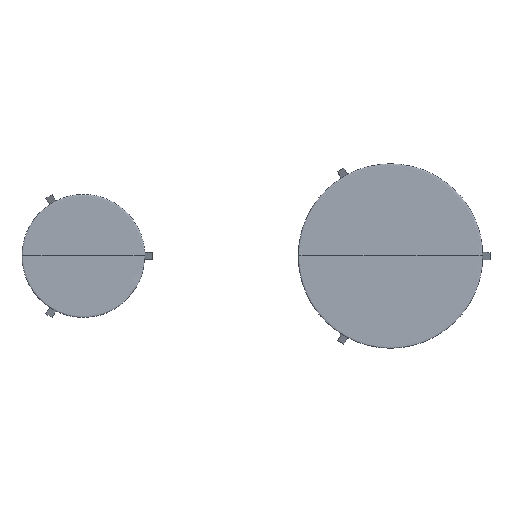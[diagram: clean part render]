
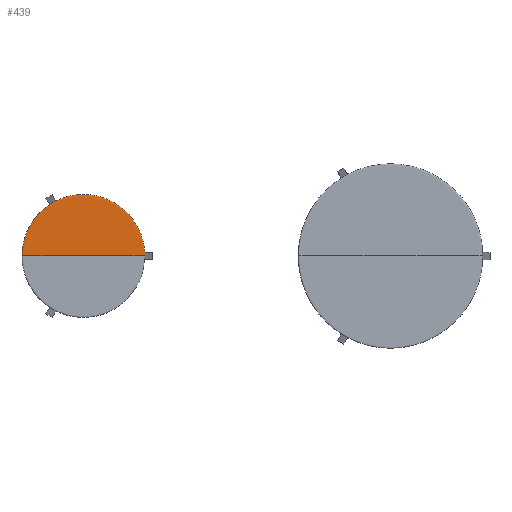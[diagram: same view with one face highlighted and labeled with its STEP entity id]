
A CAD part, top view. The second image highlights one B-rep face of the part: STEP entity #439.
In plain terms, the highlighted free-form (B-spline) face has degree [2, 3] with [5, 13] control points.
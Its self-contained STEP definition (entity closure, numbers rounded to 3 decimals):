
#67=(
BOUNDED_SURFACE()
B_SPLINE_SURFACE(2,3,((#8767,#8768,#8769,#8770,#8771,#8772,#8773,#8774,
#8775,#8776,#8777,#8778,#8779),(#8780,#8781,#8782,#8783,#8784,#8785,#8786,
#8787,#8788,#8789,#8790,#8791,#8792),(#8793,#8794,#8795,#8796,#8797,#8798,
#8799,#8800,#8801,#8802,#8803,#8804,#8805),(#8806,#8807,#8808,#8809,#8810,
#8811,#8812,#8813,#8814,#8815,#8816,#8817,#8818),(#8819,#8820,#8821,#8822,
#8823,#8824,#8825,#8826,#8827,#8828,#8829,#8830,#8831)),.UNSPECIFIED.,.F.,
 .F.,.F.)
B_SPLINE_SURFACE_WITH_KNOTS((3,2,3),(4,3,3,3,4),(0.,470.213,940.426),
(-450.,-45.,16.602,29.478,471.478),
 .UNSPECIFIED.)
GEOMETRIC_REPRESENTATION_ITEM()
RATIONAL_B_SPLINE_SURFACE(((1.,1.,1.,1.,1.,1.,1.,1.,1.,1.,1.,1.,1.),(0.707,
0.707,0.707,0.707,0.707,
0.707,0.707,0.707,0.707,
0.707,0.707,0.707,0.707),
(1.,1.,1.,1.,1.,1.,1.,1.,1.,1.,1.,1.,1.),(0.707,0.707,
0.707,0.707,0.707,0.707,
0.707,0.707,0.707,0.707,
0.707,0.707,0.707),(1.,1.,1.,1.,1.,
1.,1.,1.,1.,1.,1.,1.,1.)))
REPRESENTATION_ITEM('')
SURFACE()
);
#198=FACE_BOUND('',#1256,.T.);
#439=ADVANCED_FACE('',(#841,#198),#67,.T.);
#841=FACE_OUTER_BOUND('',#1255,.T.);
#1255=EDGE_LOOP('',(#2396,#2397,#2398,#2399,#2400));
#1256=EDGE_LOOP('',(#2401,#2402));
#2396=ORIENTED_EDGE('',*,*,#3618,.T.);
#2397=ORIENTED_EDGE('',*,*,#3620,.T.);
#2398=ORIENTED_EDGE('',*,*,#3609,.T.);
#2399=ORIENTED_EDGE('',*,*,#3619,.T.);
#2400=ORIENTED_EDGE('',*,*,#3608,.F.);
#2401=ORIENTED_EDGE('',*,*,#3615,.T.);
#2402=ORIENTED_EDGE('',*,*,#3629,.T.);
#3608=EDGE_CURVE('',#5113,#5114,#4683,.T.);
#3609=EDGE_CURVE('',#5116,#5122,#4120,.T.);
#3615=EDGE_CURVE('',#5120,#5127,#4124,.T.);
#3618=EDGE_CURVE('',#5113,#5121,#4687,.T.);
#3619=EDGE_CURVE('',#5122,#5114,#4688,.T.);
#3620=EDGE_CURVE('',#5121,#5116,#4126,.T.);
#3629=EDGE_CURVE('',#5127,#5120,#4135,.T.);
#4120=(
BOUNDED_CURVE()
B_SPLINE_CURVE(2,(#8935,#8936,#8937),.UNSPECIFIED.,.F.,.F.)
B_SPLINE_CURVE_WITH_KNOTS((3,3),(0.,4.712),.UNSPECIFIED.)
CURVE()
GEOMETRIC_REPRESENTATION_ITEM()
RATIONAL_B_SPLINE_CURVE((1.,0.707,1.))
REPRESENTATION_ITEM('')
);
#4124=(
BOUNDED_CURVE()
B_SPLINE_CURVE(2,(#8957,#8958,#8959,#8960,#8961),.UNSPECIFIED.,.F.,.F.)
B_SPLINE_CURVE_WITH_KNOTS((3,2,3),(0.,4.712,9.425),
 .UNSPECIFIED.)
CURVE()
GEOMETRIC_REPRESENTATION_ITEM()
RATIONAL_B_SPLINE_CURVE((1.,0.707,1.,0.707,1.))
REPRESENTATION_ITEM('')
);
#4126=(
BOUNDED_CURVE()
B_SPLINE_CURVE(2,(#8984,#8985,#8986),.UNSPECIFIED.,.F.,.F.)
B_SPLINE_CURVE_WITH_KNOTS((3,3),(14.137,18.85),
 .UNSPECIFIED.)
CURVE()
GEOMETRIC_REPRESENTATION_ITEM()
RATIONAL_B_SPLINE_CURVE((1.,0.707,1.))
REPRESENTATION_ITEM('')
);
#4135=(
BOUNDED_CURVE()
B_SPLINE_CURVE(2,(#9014,#9015,#9016,#9017,#9018),.UNSPECIFIED.,.F.,.F.)
B_SPLINE_CURVE_WITH_KNOTS((3,2,3),(9.425,14.137,18.85),
 .UNSPECIFIED.)
CURVE()
GEOMETRIC_REPRESENTATION_ITEM()
RATIONAL_B_SPLINE_CURVE((1.,0.707,1.,0.707,1.))
REPRESENTATION_ITEM('')
);
#4683=B_SPLINE_CURVE_WITH_KNOTS('',3,(#8922,#8923,#8924,#8925,#8926,#8927,
#8928,#8929,#8930,#8931,#8932,#8933,#8934),.UNSPECIFIED.,.F.,.F.,(4,3,3,
3,4),(-450.,-45.,16.602,29.478,471.478),
 .UNSPECIFIED.);
#4687=B_SPLINE_CURVE_WITH_KNOTS('',1,(#8969,#8970),.UNSPECIFIED.,.F.,.F.,
(2,2),(-450.,-153.),.UNSPECIFIED.);
#4688=B_SPLINE_CURVE_WITH_KNOTS('',3,(#8971,#8972,#8973,#8974,#8975,#8976,
#8977,#8978,#8979,#8980,#8981,#8982,#8983),.UNSPECIFIED.,.F.,.F.,(4,3,3,
3,4),(-143.471,-45.,16.602,29.478,471.478),
 .UNSPECIFIED.);
#5113=VERTEX_POINT('',#8906);
#5114=VERTEX_POINT('',#8907);
#5116=VERTEX_POINT('',#8909);
#5120=VERTEX_POINT('',#8913);
#5121=VERTEX_POINT('',#8914);
#5122=VERTEX_POINT('',#8915);
#5127=VERTEX_POINT('',#8920);
#8767=CARTESIAN_POINT('',(0.,0.,336.));
#8768=CARTESIAN_POINT('',(85.,0.,336.));
#8769=CARTESIAN_POINT('',(170.,0.,336.));
#8770=CARTESIAN_POINT('',(255.,0.,336.));
#8771=CARTESIAN_POINT('',(275.02,0.,336.));
#8772=CARTESIAN_POINT('',(300.,0.,344.007));
#8773=CARTESIAN_POINT('',(300.,0.,360.));
#8774=CARTESIAN_POINT('',(300.,0.,364.878));
#8775=CARTESIAN_POINT('',(297.398,0.,366.));
#8776=CARTESIAN_POINT('',(292.,0.,366.));
#8777=CARTESIAN_POINT('',(194.667,0.,366.));
#8778=CARTESIAN_POINT('',(97.333,0.,366.));
#8779=CARTESIAN_POINT('',(0.,0.,366.));
#8780=CARTESIAN_POINT('',(0.,0.,336.));
#8781=CARTESIAN_POINT('',(85.,85.,336.));
#8782=CARTESIAN_POINT('',(170.,170.,336.));
#8783=CARTESIAN_POINT('',(255.,255.,336.));
#8784=CARTESIAN_POINT('',(275.02,275.02,336.));
#8785=CARTESIAN_POINT('',(300.,300.,344.007));
#8786=CARTESIAN_POINT('',(300.,300.,360.));
#8787=CARTESIAN_POINT('',(300.,300.,364.878));
#8788=CARTESIAN_POINT('',(297.398,297.398,366.));
#8789=CARTESIAN_POINT('',(292.,292.,366.));
#8790=CARTESIAN_POINT('',(194.667,194.667,366.));
#8791=CARTESIAN_POINT('',(97.333,97.333,366.));
#8792=CARTESIAN_POINT('',(0.,0.,366.));
#8793=CARTESIAN_POINT('',(0.,0.,336.));
#8794=CARTESIAN_POINT('',(0.,85.,336.));
#8795=CARTESIAN_POINT('',(0.,170.,336.));
#8796=CARTESIAN_POINT('',(0.,255.,336.));
#8797=CARTESIAN_POINT('',(0.,275.02,336.));
#8798=CARTESIAN_POINT('',(0.,300.,344.007));
#8799=CARTESIAN_POINT('',(0.,300.,360.));
#8800=CARTESIAN_POINT('',(0.,300.,364.878));
#8801=CARTESIAN_POINT('',(0.,297.398,366.));
#8802=CARTESIAN_POINT('',(0.,292.,366.));
#8803=CARTESIAN_POINT('',(0.,194.667,366.));
#8804=CARTESIAN_POINT('',(0.,97.333,366.));
#8805=CARTESIAN_POINT('',(0.,0.,366.));
#8806=CARTESIAN_POINT('',(0.,0.,336.));
#8807=CARTESIAN_POINT('',(-85.,85.,336.));
#8808=CARTESIAN_POINT('',(-170.,170.,336.));
#8809=CARTESIAN_POINT('',(-255.,255.,336.));
#8810=CARTESIAN_POINT('',(-275.02,275.02,336.));
#8811=CARTESIAN_POINT('',(-300.,300.,344.007));
#8812=CARTESIAN_POINT('',(-300.,300.,360.));
#8813=CARTESIAN_POINT('',(-300.,300.,364.878));
#8814=CARTESIAN_POINT('',(-297.398,297.398,366.));
#8815=CARTESIAN_POINT('',(-292.,292.,366.));
#8816=CARTESIAN_POINT('',(-194.667,194.667,366.));
#8817=CARTESIAN_POINT('',(-97.333,97.333,366.));
#8818=CARTESIAN_POINT('',(0.,0.,366.));
#8819=CARTESIAN_POINT('',(0.,0.,336.));
#8820=CARTESIAN_POINT('',(-85.,0.,336.));
#8821=CARTESIAN_POINT('',(-170.,0.,336.));
#8822=CARTESIAN_POINT('',(-255.,0.,336.));
#8823=CARTESIAN_POINT('',(-275.02,0.,336.));
#8824=CARTESIAN_POINT('',(-300.,0.,344.007));
#8825=CARTESIAN_POINT('',(-300.,0.,360.));
#8826=CARTESIAN_POINT('',(-300.,0.,364.878));
#8827=CARTESIAN_POINT('',(-297.398,0.,366.));
#8828=CARTESIAN_POINT('',(-292.,0.,366.));
#8829=CARTESIAN_POINT('',(-194.667,0.,366.));
#8830=CARTESIAN_POINT('',(-97.333,0.,366.));
#8831=CARTESIAN_POINT('',(0.,0.,366.));
#8906=CARTESIAN_POINT('',(0.,0.,336.));
#8907=CARTESIAN_POINT('',(0.,0.,366.));
#8909=CARTESIAN_POINT('',(-190.,3.,336.));
#8913=CARTESIAN_POINT('',(97.598,163.045,336.));
#8914=CARTESIAN_POINT('',(-187.,0.,336.));
#8915=CARTESIAN_POINT('',(-193.,0.,336.));
#8920=CARTESIAN_POINT('',(92.402,166.045,336.));
#8922=CARTESIAN_POINT('',(0.,0.,336.));
#8923=CARTESIAN_POINT('',(85.,0.,336.));
#8924=CARTESIAN_POINT('',(170.,0.,336.));
#8925=CARTESIAN_POINT('',(255.,0.,336.));
#8926=CARTESIAN_POINT('',(275.02,0.,336.));
#8927=CARTESIAN_POINT('',(300.,0.,344.007));
#8928=CARTESIAN_POINT('',(300.,0.,360.));
#8929=CARTESIAN_POINT('',(300.,0.,364.878));
#8930=CARTESIAN_POINT('',(297.398,0.,366.));
#8931=CARTESIAN_POINT('',(292.,0.,366.));
#8932=CARTESIAN_POINT('',(194.667,0.,366.));
#8933=CARTESIAN_POINT('',(97.333,0.,366.));
#8934=CARTESIAN_POINT('',(0.,0.,366.));
#8935=CARTESIAN_POINT('',(-190.,3.,336.));
#8936=CARTESIAN_POINT('',(-193.,3.,336.));
#8937=CARTESIAN_POINT('',(-193.,0.,336.));
#8957=CARTESIAN_POINT('',(97.598,163.045,336.));
#8958=CARTESIAN_POINT('',(99.098,165.643,336.));
#8959=CARTESIAN_POINT('',(96.5,167.143,336.));
#8960=CARTESIAN_POINT('',(93.902,168.643,336.));
#8961=CARTESIAN_POINT('',(92.402,166.045,336.));
#8969=CARTESIAN_POINT('',(0.,0.,336.));
#8970=CARTESIAN_POINT('',(-187.,0.,336.));
#8971=CARTESIAN_POINT('',(-193.,0.,336.));
#8972=CARTESIAN_POINT('',(-213.667,0.,336.));
#8973=CARTESIAN_POINT('',(-234.333,0.,336.));
#8974=CARTESIAN_POINT('',(-255.,0.,336.));
#8975=CARTESIAN_POINT('',(-275.02,0.,336.));
#8976=CARTESIAN_POINT('',(-300.,0.,344.007));
#8977=CARTESIAN_POINT('',(-300.,0.,360.));
#8978=CARTESIAN_POINT('',(-300.,0.,364.878));
#8979=CARTESIAN_POINT('',(-297.398,0.,366.));
#8980=CARTESIAN_POINT('',(-292.,0.,366.));
#8981=CARTESIAN_POINT('',(-194.667,0.,366.));
#8982=CARTESIAN_POINT('',(-97.333,0.,366.));
#8983=CARTESIAN_POINT('',(0.,0.,366.));
#8984=CARTESIAN_POINT('',(-187.,0.,336.));
#8985=CARTESIAN_POINT('',(-187.,3.,336.));
#8986=CARTESIAN_POINT('',(-190.,3.,336.));
#9014=CARTESIAN_POINT('',(92.402,166.045,336.));
#9015=CARTESIAN_POINT('',(90.902,163.447,336.));
#9016=CARTESIAN_POINT('',(93.5,161.947,336.));
#9017=CARTESIAN_POINT('',(96.098,160.447,336.));
#9018=CARTESIAN_POINT('',(97.598,163.045,336.));
